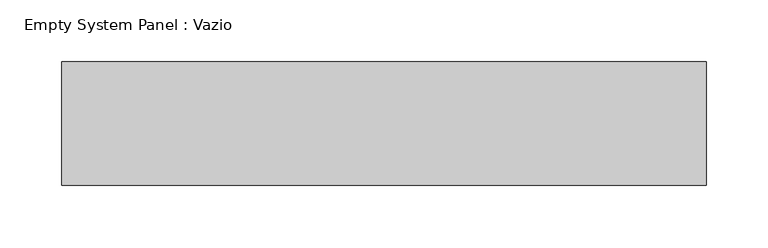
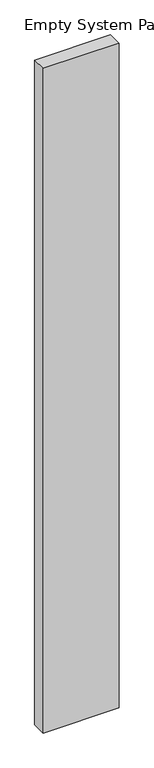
"""IFC4 building model written with IfcOpenShell, lengths in millimetres: plate geometry, Empty System Panel : Vazio."""

from ifc_helpers import new_model, si_unit, origin, origin_with_axes, place, context, project, spatial, polyline, outline, extrude, source, transform, mapped, element, save


def empty_system_panel_vazio_2a3f5358(model_context):
    return source(origin(), model_context, "Body", "SweptSolid", [
        extrude(outline(polyline([(261.2404315, 50.0), (-261.2404315, 50.0), (-261.2404315, 150.0), (261.2404315, 150.0), (261.2404315, 50.0)])), origin_with_axes(), (0.0, 0.0, 1.0), 4833.5469271),
    ])


if __name__ == "__main__":
    model = new_model("IFC4")
    model_context = context("Model", 3, world=origin())
    ifc_project = project(units=[si_unit("LENGTHUNIT", "METRE", prefix="MILLI")], contexts=[model_context])
    site = spatial("IfcSite", under=ifc_project)
    building = spatial("IfcBuilding", under=site)
    placement = place(None, origin())
    empty_system_panel_vazio_shape = empty_system_panel_vazio_2a3f5358(model_context)
    element("IfcPlate", 1, ObjectType="Empty System Panel : Vazio", at=placement, inside=building, context=model_context, shape_type="MappedRepresentation", body=[
        mapped(empty_system_panel_vazio_shape, transform((0.0, 0.0, 0.0), x_axis=(1.0, 0.0, 0.0), y_axis=(0.0, 1.0, 0.0), z_axis=(0.0, 0.0, 1.0))),
    ])
    save(model, "model.ifc")
